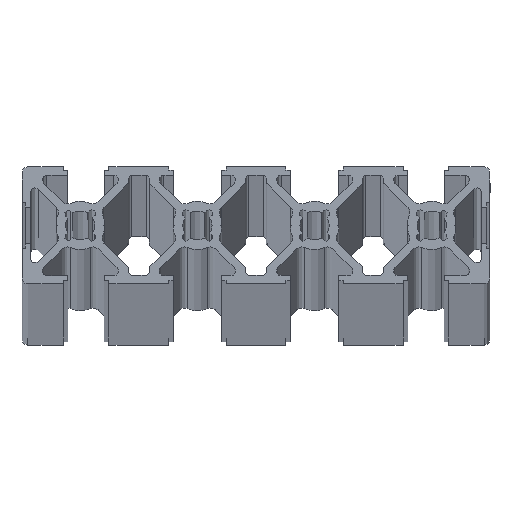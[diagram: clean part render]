
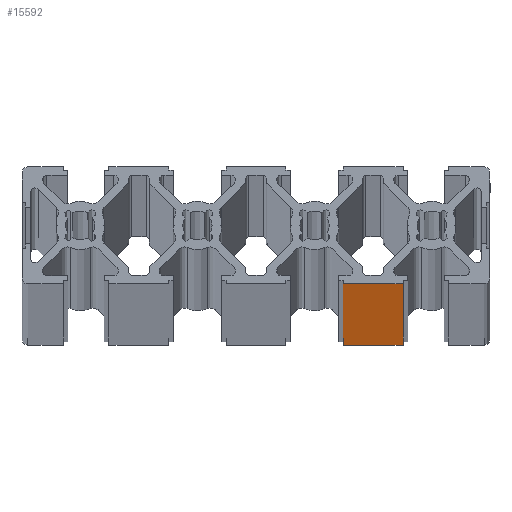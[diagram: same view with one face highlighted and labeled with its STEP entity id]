
A CAD part, top view. The second image highlights one B-rep face of the part: STEP entity #15592.
In plain terms, the highlighted planar face has unit normal (0, -1, 0).
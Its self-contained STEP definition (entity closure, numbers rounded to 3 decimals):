
#449 = DIRECTION ( 'NONE',  ( 1., 0., 0. ) ) ;
#494 = CARTESIAN_POINT ( 'NONE',  ( 162.336, 242.506, -6000. ) ) ;
#947 = ORIENTED_EDGE ( 'NONE', *, *, #3383, .F. ) ;
#1305 = EDGE_CURVE ( 'NONE', #6504, #3116, #14512, .T. ) ;
#2249 = VECTOR ( 'NONE', #449, 1000. ) ;
#3116 = VERTEX_POINT ( 'NONE', #14105 ) ;
#3383 = EDGE_CURVE ( 'NONE', #10469, #9203, #13394, .T. ) ;
#4562 = EDGE_LOOP ( 'NONE', ( #947, #10056, #15804, #13937 ) ) ;
#4674 = DIRECTION ( 'NONE',  ( 0., -1., 0. ) ) ;
#6162 = AXIS2_PLACEMENT_3D ( 'NONE', #12662, #4674, #13999 ) ;
#6504 = VERTEX_POINT ( 'NONE', #494 ) ;
#6542 = EDGE_CURVE ( 'NONE', #6504, #10469, #16803, .T. ) ;
#7184 = DIRECTION ( 'NONE',  ( 0., 0., 1. ) ) ;
#9203 = VERTEX_POINT ( 'NONE', #15573 ) ;
#9353 = FACE_OUTER_BOUND ( 'NONE', #4562, .T. ) ;
#9753 = VECTOR ( 'NONE', #7184, 1000. ) ;
#9957 = PLANE ( 'NONE',  #6162 ) ;
#10056 = ORIENTED_EDGE ( 'NONE', *, *, #6542, .F. ) ;
#10469 = VERTEX_POINT ( 'NONE', #13702 ) ;
#11030 = DIRECTION ( 'NONE',  ( 0., 0., 1. ) ) ;
#12403 = CARTESIAN_POINT ( 'NONE',  ( 167.466, 242.506, 0. ) ) ;
#12574 = VECTOR ( 'NONE', #11030, 1000. ) ;
#12662 = CARTESIAN_POINT ( 'NONE',  ( 167.466, 242.506, -6000. ) ) ;
#12971 = LINE ( 'NONE', #14974, #12574 ) ;
#13246 = DIRECTION ( 'NONE',  ( 1., 0., 0. ) ) ;
#13394 = LINE ( 'NONE', #12403, #16897 ) ;
#13538 = CARTESIAN_POINT ( 'NONE',  ( 167.466, 242.506, -6000. ) ) ;
#13702 = CARTESIAN_POINT ( 'NONE',  ( 162.336, 242.506, 0. ) ) ;
#13867 = CARTESIAN_POINT ( 'NONE',  ( 162.336, 242.506, -6000. ) ) ;
#13937 = ORIENTED_EDGE ( 'NONE', *, *, #14137, .T. ) ;
#13999 = DIRECTION ( 'NONE',  ( 1., 0., 0. ) ) ;
#14105 = CARTESIAN_POINT ( 'NONE',  ( 172.595, 242.506, -6000. ) ) ;
#14137 = EDGE_CURVE ( 'NONE', #3116, #9203, #12971, .T. ) ;
#14512 = LINE ( 'NONE', #13538, #2249 ) ;
#14974 = CARTESIAN_POINT ( 'NONE',  ( 172.595, 242.506, -6000. ) ) ;
#15573 = CARTESIAN_POINT ( 'NONE',  ( 172.595, 242.506, 0. ) ) ;
#15592 = ADVANCED_FACE ( 'NONE', ( #9353 ), #9957, .T. ) ;
#15804 = ORIENTED_EDGE ( 'NONE', *, *, #1305, .T. ) ;
#16803 = LINE ( 'NONE', #13867, #9753 ) ;
#16897 = VECTOR ( 'NONE', #13246, 1000. ) ;
